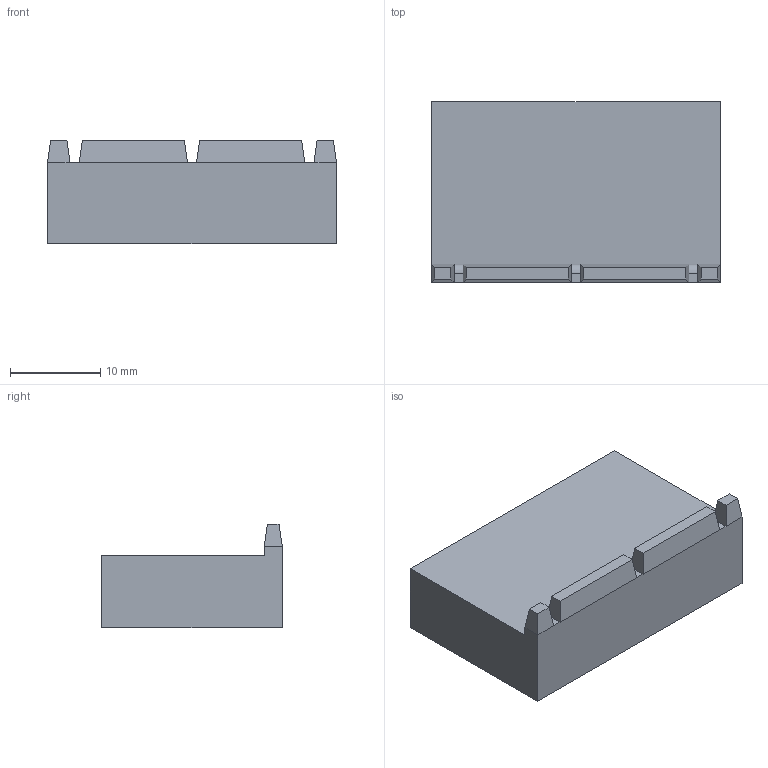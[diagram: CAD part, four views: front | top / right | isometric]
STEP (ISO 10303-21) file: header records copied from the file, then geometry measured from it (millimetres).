
FILE_DESCRIPTION(('STEP AP203'), '1');
FILE_NAME('ïîðîæåê âåðõíèé', '', ('UNSPECIFIED'), ('UNSPECIFIED'), 'ASCON STEP Converter 1.3', 'ASCON Math Kernel', '');
FILE_SCHEMA(('CONFIG_CONTROL_DESIGN'));
Length unit declared in the file: millimetre
Bounding box: 32 x 20 x 11.5 mm (x, y, z)
Volume: 5297.5 mm3; surface area: 2328.6 mm2
Topology: 1 solids, 1 shells, 42 faces, 92 edges, 52 vertices
Faces by surface type: plane 39, cylinder 3
Entity records: 1478 total; most frequent: CARTESIAN_POINT 187, DIRECTION 184, ORIENTED_EDGE 184, EDGE_CURVE 92, LINE 86, VECTOR 86, VERTEX_POINT 52, AXIS2_PLACEMENT_3D 49
